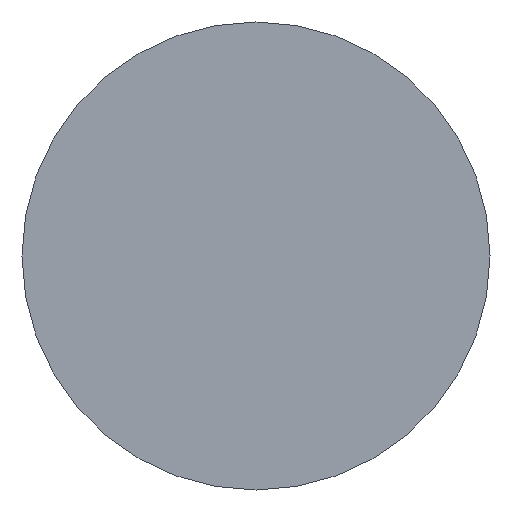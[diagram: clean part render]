
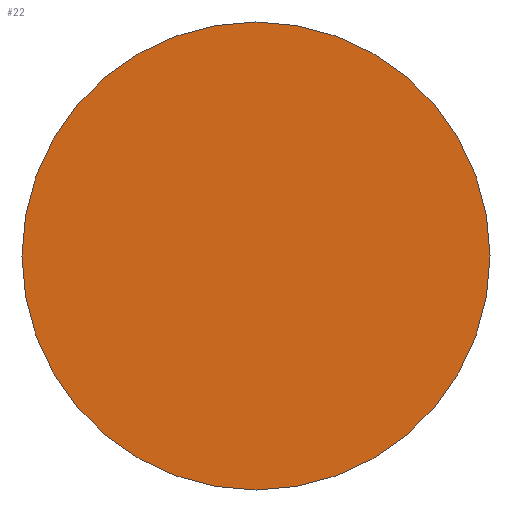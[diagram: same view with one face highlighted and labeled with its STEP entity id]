
A CAD part, left-side view. The second image highlights one B-rep face of the part: STEP entity #22.
In plain terms, the highlighted planar face has unit normal (-1, 0, 0).
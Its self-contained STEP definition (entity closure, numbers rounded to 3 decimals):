
#4 = ORIENTED_EDGE ( 'NONE', *, *, #179, .F. ) ;
#8 = CARTESIAN_POINT ( 'NONE',  ( 0., 9., 0. ) ) ;
#22 = ADVANCED_FACE ( 'NONE', ( #58 ), #226, .T. ) ;
#24 = CARTESIAN_POINT ( 'NONE',  ( 0., 0., 0. ) ) ;
#33 = DIRECTION ( 'NONE',  ( 0., 1., 0. ) ) ;
#38 = AXIS2_PLACEMENT_3D ( 'NONE', #24, #138, #189 ) ;
#58 = FACE_OUTER_BOUND ( 'NONE', #225, .T. ) ;
#65 = DIRECTION ( 'NONE',  ( 0., 1., 0. ) ) ;
#69 = CARTESIAN_POINT ( 'NONE',  ( 0., -9., 0. ) ) ;
#81 = ORIENTED_EDGE ( 'NONE', *, *, #148, .F. ) ;
#91 = CARTESIAN_POINT ( 'NONE',  ( 0., 0., 0. ) ) ;
#116 = VERTEX_POINT ( 'NONE', #69 ) ;
#117 = DIRECTION ( 'NONE',  ( 1., 0., 0. ) ) ;
#125 = VERTEX_POINT ( 'NONE', #8 ) ;
#133 = DIRECTION ( 'NONE',  ( 1., 0., 0. ) ) ;
#138 = DIRECTION ( 'NONE',  ( -1., 0., 0. ) ) ;
#148 = EDGE_CURVE ( 'NONE', #125, #116, #221, .T. ) ;
#179 = EDGE_CURVE ( 'NONE', #116, #125, #238, .T. ) ;
#188 = AXIS2_PLACEMENT_3D ( 'NONE', #195, #117, #65 ) ;
#189 = DIRECTION ( 'NONE',  ( 0., -1., 0. ) ) ;
#195 = CARTESIAN_POINT ( 'NONE',  ( 0., 0., 0. ) ) ;
#221 = CIRCLE ( 'NONE', #188, 9. ) ;
#225 = EDGE_LOOP ( 'NONE', ( #81, #4 ) ) ;
#226 = PLANE ( 'NONE',  #38 ) ;
#238 = CIRCLE ( 'NONE', #253, 9. ) ;
#253 = AXIS2_PLACEMENT_3D ( 'NONE', #91, #133, #33 ) ;
